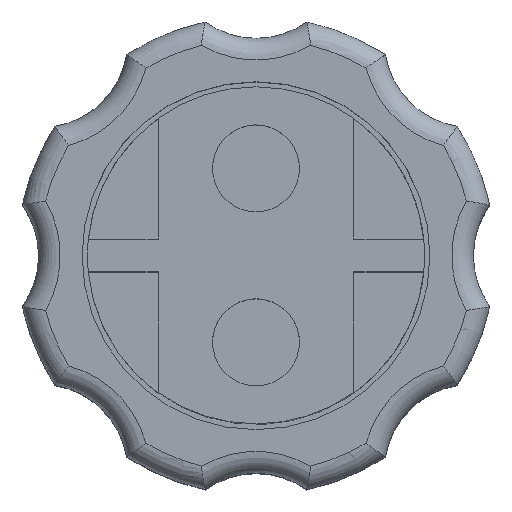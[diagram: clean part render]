
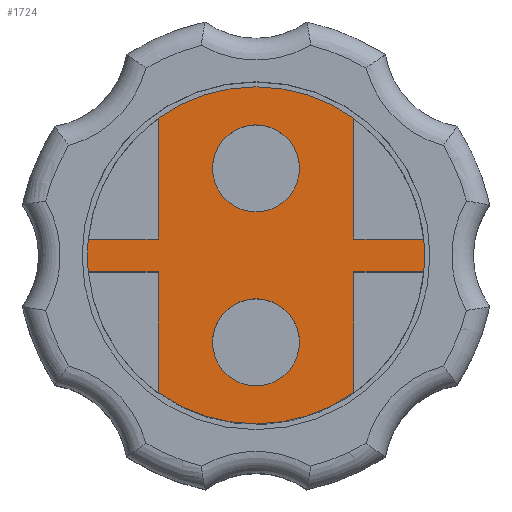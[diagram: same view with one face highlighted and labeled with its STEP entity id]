
A CAD part, top view. The second image highlights one B-rep face of the part: STEP entity #1724.
In plain terms, the highlighted planar face has unit normal (0, 0, 1).
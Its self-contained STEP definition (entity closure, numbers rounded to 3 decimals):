
#56=FACE_BOUND('',#556,.T.);
#57=FACE_BOUND('',#557,.T.);
#97=PLANE('',#1932);
#177=LINE('',#3346,#277);
#183=LINE('',#3358,#283);
#187=LINE('',#3367,#287);
#189=LINE('',#3373,#289);
#194=LINE('',#3382,#294);
#195=LINE('',#3385,#295);
#198=LINE('',#3391,#298);
#199=LINE('',#3396,#299);
#277=VECTOR('',#2405,5.56);
#283=VECTOR('',#2413,5.56);
#287=VECTOR('',#2419,5.56);
#289=VECTOR('',#2423,5.56);
#294=VECTOR('',#2430,3.214);
#295=VECTOR('',#2433,3.214);
#298=VECTOR('',#2438,3.214);
#299=VECTOR('',#2445,3.214);
#430=FACE_OUTER_BOUND('',#555,.T.);
#555=EDGE_LOOP('',(#1495,#1496,#1497,#1498,#1499,#1500,#1501,#1502,#1503,
#1504,#1505,#1506));
#556=EDGE_LOOP('',(#1507));
#557=EDGE_LOOP('',(#1508));
#701=CIRCLE('',#1919,2.);
#703=CIRCLE('',#1923,2.);
#705=CIRCLE('',#1933,7.75);
#706=CIRCLE('',#1934,7.75);
#707=CIRCLE('',#1935,7.75);
#708=CIRCLE('',#1936,7.75);
#844=VERTEX_POINT('',#3330);
#846=VERTEX_POINT('',#3336);
#848=VERTEX_POINT('',#3342);
#850=VERTEX_POINT('',#3345);
#853=VERTEX_POINT('',#3352);
#855=VERTEX_POINT('',#3356);
#857=VERTEX_POINT('',#3361);
#859=VERTEX_POINT('',#3365);
#860=VERTEX_POINT('',#3369);
#862=VERTEX_POINT('',#3372);
#865=VERTEX_POINT('',#3380);
#866=VERTEX_POINT('',#3384);
#868=VERTEX_POINT('',#3390);
#869=VERTEX_POINT('',#3394);
#1068=EDGE_CURVE('',#844,#844,#701,.T.);
#1070=EDGE_CURVE('',#846,#846,#703,.T.);
#1073=EDGE_CURVE('',#848,#850,#177,.T.);
#1079=EDGE_CURVE('',#855,#853,#183,.T.);
#1083=EDGE_CURVE('',#859,#857,#187,.T.);
#1085=EDGE_CURVE('',#860,#862,#189,.T.);
#1090=EDGE_CURVE('',#865,#848,#194,.T.);
#1091=EDGE_CURVE('',#857,#866,#195,.T.);
#1094=EDGE_CURVE('',#868,#860,#198,.T.);
#1095=EDGE_CURVE('',#866,#868,#705,.T.);
#1096=EDGE_CURVE('',#850,#859,#706,.T.);
#1097=EDGE_CURVE('',#869,#865,#707,.T.);
#1098=EDGE_CURVE('',#853,#869,#199,.T.);
#1099=EDGE_CURVE('',#862,#855,#708,.T.);
#1495=ORIENTED_EDGE('',*,*,#1094,.F.);
#1496=ORIENTED_EDGE('',*,*,#1095,.F.);
#1497=ORIENTED_EDGE('',*,*,#1091,.F.);
#1498=ORIENTED_EDGE('',*,*,#1083,.F.);
#1499=ORIENTED_EDGE('',*,*,#1096,.F.);
#1500=ORIENTED_EDGE('',*,*,#1073,.F.);
#1501=ORIENTED_EDGE('',*,*,#1090,.F.);
#1502=ORIENTED_EDGE('',*,*,#1097,.F.);
#1503=ORIENTED_EDGE('',*,*,#1098,.F.);
#1504=ORIENTED_EDGE('',*,*,#1079,.F.);
#1505=ORIENTED_EDGE('',*,*,#1099,.F.);
#1506=ORIENTED_EDGE('',*,*,#1085,.F.);
#1507=ORIENTED_EDGE('',*,*,#1068,.T.);
#1508=ORIENTED_EDGE('',*,*,#1070,.T.);
#1724=ADVANCED_FACE('',(#430,#56,#57),#97,.T.);
#1919=AXIS2_PLACEMENT_3D('',#3331,#2388,#2389);
#1923=AXIS2_PLACEMENT_3D('',#3337,#2396,#2397);
#1932=AXIS2_PLACEMENT_3D('',#3389,#2436,#2437);
#1933=AXIS2_PLACEMENT_3D('',#3392,#2439,#2440);
#1934=AXIS2_PLACEMENT_3D('',#3393,#2441,#2442);
#1935=AXIS2_PLACEMENT_3D('',#3395,#2443,#2444);
#1936=AXIS2_PLACEMENT_3D('',#3397,#2446,#2447);
#2388=DIRECTION('center_axis',(0.,0.,
-1.));
#2389=DIRECTION('ref_axis',(1.,0.,0.));
#2396=DIRECTION('center_axis',(0.,0.,
-1.));
#2397=DIRECTION('ref_axis',(1.,0.,0.));
#2405=DIRECTION('',(0.,1.,0.));
#2413=DIRECTION('',(0.,1.,0.));
#2419=DIRECTION('',(0.,-1.,0.));
#2423=DIRECTION('',(0.,-1.,0.));
#2430=DIRECTION('',(1.,0.,0.));
#2433=DIRECTION('',(1.,0.,0.));
#2436=DIRECTION('center_axis',(0.,0.,
1.));
#2437=DIRECTION('ref_axis',(1.,0.,0.));
#2438=DIRECTION('',(-1.,0.,0.));
#2439=DIRECTION('center_axis',(0.,0.,-1.));
#2440=DIRECTION('ref_axis',(1.,0.,0.));
#2441=DIRECTION('center_axis',(0.,0.,-1.));
#2442=DIRECTION('ref_axis',(1.,0.,0.));
#2443=DIRECTION('center_axis',(0.,0.,-1.));
#2444=DIRECTION('ref_axis',(1.,0.,0.));
#2445=DIRECTION('',(-1.,0.,0.));
#2446=DIRECTION('center_axis',(0.,0.,-1.));
#2447=DIRECTION('ref_axis',(1.,0.,0.));
#3330=CARTESIAN_POINT('',(2.,4.,17.5));
#3331=CARTESIAN_POINT('Origin',(0.,4.,17.5));
#3336=CARTESIAN_POINT('',(2.,-4.,17.5));
#3337=CARTESIAN_POINT('Origin',(0.,-4.,17.5));
#3342=CARTESIAN_POINT('',(-4.5,0.75,17.5));
#3345=CARTESIAN_POINT('',(-4.5,6.31,17.5));
#3346=CARTESIAN_POINT('',(-4.5,6.31,17.5));
#3352=CARTESIAN_POINT('',(-4.5,-0.75,17.5));
#3356=CARTESIAN_POINT('',(-4.5,-6.31,17.5));
#3358=CARTESIAN_POINT('',(-4.5,6.31,17.5));
#3361=CARTESIAN_POINT('',(4.5,0.75,17.5));
#3365=CARTESIAN_POINT('',(4.5,6.31,17.5));
#3367=CARTESIAN_POINT('',(4.5,-6.31,17.5));
#3369=CARTESIAN_POINT('',(4.5,-0.75,17.5));
#3372=CARTESIAN_POINT('',(4.5,-6.31,17.5));
#3373=CARTESIAN_POINT('',(4.5,-6.31,17.5));
#3380=CARTESIAN_POINT('',(-7.714,0.75,17.5));
#3382=CARTESIAN_POINT('',(7.714,0.75,17.5));
#3384=CARTESIAN_POINT('',(7.714,0.75,17.5));
#3385=CARTESIAN_POINT('',(7.714,0.75,17.5));
#3389=CARTESIAN_POINT('Origin',(0.,0.,
17.5));
#3390=CARTESIAN_POINT('',(7.714,-0.75,17.5));
#3391=CARTESIAN_POINT('',(-7.714,-0.75,17.5));
#3392=CARTESIAN_POINT('Origin',(0.,0.,17.5));
#3393=CARTESIAN_POINT('Origin',(0.,0.,17.5));
#3394=CARTESIAN_POINT('',(-7.714,-0.75,17.5));
#3395=CARTESIAN_POINT('Origin',(0.,0.,17.5));
#3396=CARTESIAN_POINT('',(-7.714,-0.75,17.5));
#3397=CARTESIAN_POINT('Origin',(0.,0.,17.5));
